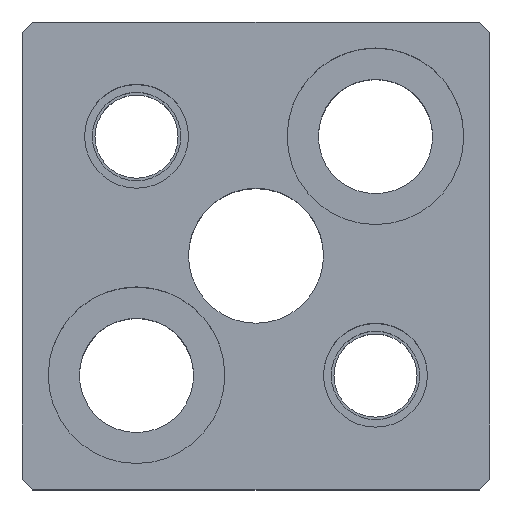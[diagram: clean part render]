
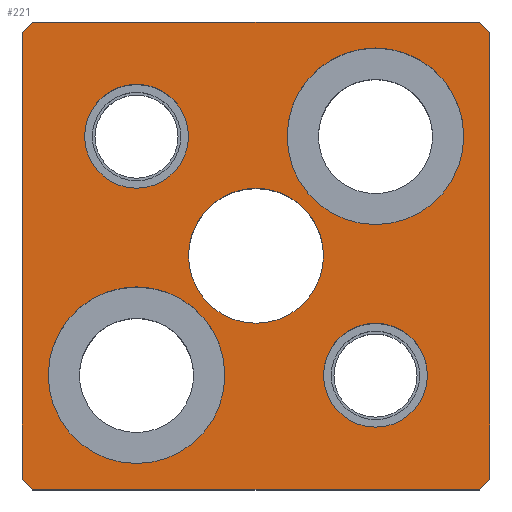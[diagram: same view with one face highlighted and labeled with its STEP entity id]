
A CAD part, top view. The second image highlights one B-rep face of the part: STEP entity #221.
In plain terms, the highlighted planar face has unit normal (0, 0, 1).
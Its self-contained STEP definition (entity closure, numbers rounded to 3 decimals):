
#103=FACE_BOUND('',#329,.T.);
#104=FACE_BOUND('',#330,.T.);
#105=FACE_BOUND('',#331,.T.);
#106=FACE_BOUND('',#332,.T.);
#107=FACE_BOUND('',#333,.T.);
#108=FACE_BOUND('',#334,.T.);
#157=CIRCLE('',#928,8.5);
#159=CIRCLE('',#931,8.5);
#161=CIRCLE('',#935,8.5);
#163=CIRCLE('',#938,8.5);
#165=CIRCLE('',#942,5.);
#166=CIRCLE('',#943,5.);
#167=CIRCLE('',#944,5.);
#168=CIRCLE('',#945,5.);
#169=CIRCLE('',#946,6.5);
#170=CIRCLE('',#947,6.5);
#221=ADVANCED_FACE('',(#103,#104,#105,#106,#107,#108),#260,.T.);
#260=PLANE('',#948);
#329=EDGE_LOOP('',(#469,#470,#471,#472,#473,#474,#475,#476));
#330=EDGE_LOOP('',(#477,#478));
#331=EDGE_LOOP('',(#479,#480));
#332=EDGE_LOOP('',(#481,#482));
#333=EDGE_LOOP('',(#483,#484));
#334=EDGE_LOOP('',(#485,#486));
#469=ORIENTED_EDGE('',*,*,#683,.T.);
#470=ORIENTED_EDGE('',*,*,#680,.T.);
#471=ORIENTED_EDGE('',*,*,#698,.T.);
#472=ORIENTED_EDGE('',*,*,#695,.T.);
#473=ORIENTED_EDGE('',*,*,#692,.T.);
#474=ORIENTED_EDGE('',*,*,#676,.T.);
#475=ORIENTED_EDGE('',*,*,#673,.T.);
#476=ORIENTED_EDGE('',*,*,#669,.T.);
#477=ORIENTED_EDGE('',*,*,#727,.F.);
#478=ORIENTED_EDGE('',*,*,#728,.F.);
#479=ORIENTED_EDGE('',*,*,#729,.F.);
#480=ORIENTED_EDGE('',*,*,#730,.F.);
#481=ORIENTED_EDGE('',*,*,#725,.F.);
#482=ORIENTED_EDGE('',*,*,#721,.F.);
#483=ORIENTED_EDGE('',*,*,#719,.F.);
#484=ORIENTED_EDGE('',*,*,#715,.F.);
#485=ORIENTED_EDGE('',*,*,#731,.T.);
#486=ORIENTED_EDGE('',*,*,#732,.T.);
#595=VERTEX_POINT('',#1264);
#596=VERTEX_POINT('',#1266);
#599=VERTEX_POINT('',#1274);
#601=VERTEX_POINT('',#1280);
#604=VERTEX_POINT('',#1287);
#605=VERTEX_POINT('',#1289);
#612=VERTEX_POINT('',#1312);
#614=VERTEX_POINT('',#1318);
#625=VERTEX_POINT('',#1357);
#626=VERTEX_POINT('',#1358);
#629=VERTEX_POINT('',#1370);
#630=VERTEX_POINT('',#1371);
#633=VERTEX_POINT('',#1383);
#634=VERTEX_POINT('',#1384);
#635=VERTEX_POINT('',#1387);
#636=VERTEX_POINT('',#1388);
#637=VERTEX_POINT('',#1391);
#638=VERTEX_POINT('',#1392);
#669=EDGE_CURVE('',#596,#595,#781,.T.);
#673=EDGE_CURVE('',#599,#596,#785,.T.);
#676=EDGE_CURVE('',#601,#599,#788,.T.);
#680=EDGE_CURVE('',#605,#604,#792,.T.);
#683=EDGE_CURVE('',#595,#605,#795,.T.);
#692=EDGE_CURVE('',#612,#601,#804,.T.);
#695=EDGE_CURVE('',#614,#612,#807,.T.);
#698=EDGE_CURVE('',#604,#614,#810,.T.);
#715=EDGE_CURVE('',#625,#626,#157,.T.);
#719=EDGE_CURVE('',#626,#625,#159,.T.);
#721=EDGE_CURVE('',#629,#630,#161,.T.);
#725=EDGE_CURVE('',#630,#629,#163,.T.);
#727=EDGE_CURVE('',#633,#634,#165,.T.);
#728=EDGE_CURVE('',#634,#633,#166,.T.);
#729=EDGE_CURVE('',#635,#636,#167,.T.);
#730=EDGE_CURVE('',#636,#635,#168,.T.);
#731=EDGE_CURVE('',#637,#638,#169,.T.);
#732=EDGE_CURVE('',#638,#637,#170,.T.);
#781=LINE('',#1265,#843);
#785=LINE('',#1273,#847);
#788=LINE('',#1279,#850);
#792=LINE('',#1288,#854);
#795=LINE('',#1294,#857);
#804=LINE('',#1311,#866);
#807=LINE('',#1317,#869);
#810=LINE('',#1323,#872);
#843=VECTOR('',#1005,1.);
#847=VECTOR('',#1011,1.);
#850=VECTOR('',#1016,1.);
#854=VECTOR('',#1022,1.);
#857=VECTOR('',#1027,1.);
#866=VECTOR('',#1042,1.);
#869=VECTOR('',#1047,1.);
#872=VECTOR('',#1052,1.);
#928=AXIS2_PLACEMENT_3D('',#1356,#1091,#1092);
#931=AXIS2_PLACEMENT_3D('',#1365,#1099,#1100);
#935=AXIS2_PLACEMENT_3D('',#1369,#1107,#1108);
#938=AXIS2_PLACEMENT_3D('',#1378,#1115,#1116);
#942=AXIS2_PLACEMENT_3D('',#1382,#1123,#1124);
#943=AXIS2_PLACEMENT_3D('',#1385,#1125,#1126);
#944=AXIS2_PLACEMENT_3D('',#1386,#1127,#1128);
#945=AXIS2_PLACEMENT_3D('',#1389,#1129,#1130);
#946=AXIS2_PLACEMENT_3D('',#1390,#1131,#1132);
#947=AXIS2_PLACEMENT_3D('',#1393,#1133,#1134);
#948=AXIS2_PLACEMENT_3D('',#1394,#1135,#1136);
#1005=DIRECTION('',(1.,0.,0.));
#1011=DIRECTION('',(0.707,-0.707,0.));
#1016=DIRECTION('',(0.,-1.,0.));
#1022=DIRECTION('',(0.,1.,0.));
#1027=DIRECTION('',(0.707,0.707,0.));
#1042=DIRECTION('',(-0.707,-0.707,0.));
#1047=DIRECTION('',(-1.,0.,0.));
#1052=DIRECTION('',(-0.707,0.707,0.));
#1091=DIRECTION('',(0.,0.,1.));
#1092=DIRECTION('',(-1.,0.,0.));
#1099=DIRECTION('',(0.,0.,1.));
#1100=DIRECTION('',(1.,0.,0.));
#1107=DIRECTION('',(0.,0.,1.));
#1108=DIRECTION('',(-1.,0.,0.));
#1115=DIRECTION('',(0.,0.,1.));
#1116=DIRECTION('',(1.,0.,0.));
#1123=DIRECTION('',(0.,0.,1.));
#1124=DIRECTION('',(1.,0.,0.));
#1125=DIRECTION('',(0.,0.,1.));
#1126=DIRECTION('',(-1.,0.,0.));
#1127=DIRECTION('',(0.,0.,1.));
#1128=DIRECTION('',(1.,0.,0.));
#1129=DIRECTION('',(0.,0.,1.));
#1130=DIRECTION('',(-1.,0.,0.));
#1131=DIRECTION('',(0.,0.,-1.));
#1132=DIRECTION('',(-1.,0.,0.));
#1133=DIRECTION('',(0.,0.,-1.));
#1134=DIRECTION('',(1.,0.,0.));
#1135=DIRECTION('',(0.,0.,1.));
#1136=DIRECTION('',(-1.,0.,0.));
#1264=CARTESIAN_POINT('',(21.5,-22.5,30.));
#1265=CARTESIAN_POINT('',(-21.5,-22.5,30.));
#1266=CARTESIAN_POINT('',(-21.5,-22.5,30.));
#1273=CARTESIAN_POINT('',(-21.5,-22.5,30.));
#1274=CARTESIAN_POINT('',(-22.5,-21.5,30.));
#1279=CARTESIAN_POINT('',(-22.5,21.5,30.));
#1280=CARTESIAN_POINT('',(-22.5,21.5,30.));
#1287=CARTESIAN_POINT('',(22.5,21.5,30.));
#1288=CARTESIAN_POINT('',(22.5,21.5,30.));
#1289=CARTESIAN_POINT('',(22.5,-21.5,30.));
#1294=CARTESIAN_POINT('',(22.5,-21.5,30.));
#1311=CARTESIAN_POINT('',(-22.5,21.5,30.));
#1312=CARTESIAN_POINT('',(-21.5,22.5,30.));
#1317=CARTESIAN_POINT('',(-21.5,22.5,30.));
#1318=CARTESIAN_POINT('',(21.5,22.5,30.));
#1323=CARTESIAN_POINT('',(21.5,22.5,30.));
#1356=CARTESIAN_POINT('',(-11.5,-11.5,30.));
#1357=CARTESIAN_POINT('',(-11.5,-20.,30.));
#1358=CARTESIAN_POINT('',(-11.5,-3.,30.));
#1365=CARTESIAN_POINT('',(-11.5,-11.5,30.));
#1369=CARTESIAN_POINT('',(11.5,11.5,30.));
#1370=CARTESIAN_POINT('',(11.5,3.,30.));
#1371=CARTESIAN_POINT('',(11.5,20.,30.));
#1378=CARTESIAN_POINT('',(11.5,11.5,30.));
#1382=CARTESIAN_POINT('',(-11.5,11.5,30.));
#1383=CARTESIAN_POINT('',(-11.5,16.5,30.));
#1384=CARTESIAN_POINT('',(-11.5,6.5,30.));
#1385=CARTESIAN_POINT('',(-11.5,11.5,30.));
#1386=CARTESIAN_POINT('',(11.5,-11.5,30.));
#1387=CARTESIAN_POINT('',(11.5,-6.5,30.));
#1388=CARTESIAN_POINT('',(11.5,-16.5,30.));
#1389=CARTESIAN_POINT('',(11.5,-11.5,30.));
#1390=CARTESIAN_POINT('',(0.,0.,30.));
#1391=CARTESIAN_POINT('',(0.,6.5,30.));
#1392=CARTESIAN_POINT('',(0.,-6.5,30.));
#1393=CARTESIAN_POINT('',(0.,0.,30.));
#1394=CARTESIAN_POINT('',(21.5,-22.5,30.));
